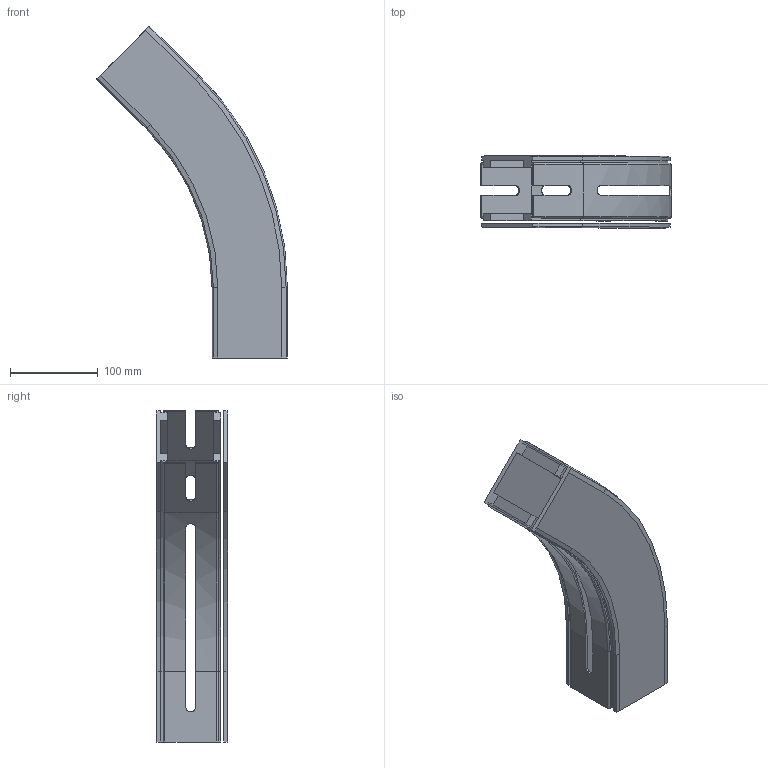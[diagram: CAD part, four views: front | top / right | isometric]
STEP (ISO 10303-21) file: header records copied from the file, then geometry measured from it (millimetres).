
FILE_DESCRIPTION((''),'2;1');
FILE_NAME('C:\Vault Klient\Projekt\Koncept konstruktion\Serie 530 Balk\530-5200.stp','2010-12-01T08:06:11',('Mathias'),(''),'Autodesk Inventor 2011','Autodesk Inventor 2011','');
FILE_SCHEMA(('AUTOMOTIVE_DESIGN { 1 0 10303 214 1 1 1 1 }'));
Length unit declared in the file: millimetre
Products named in the file (1): 530-5200
Bounding box: 217.84 x 82 x 379.11 mm (x, y, z)
Volume: 573302.4 mm3; surface area: 276004.1 mm2
Topology: 2 solids, 2 shells, 159 faces, 446 edges, 292 vertices
Faces by surface type: plane 103, cylinder 32, bspline 16, torus 4, cone 4
Entity records: 5362 total; most frequent: CARTESIAN_POINT 1206, ORIENTED_EDGE 892, DIRECTION 782, EDGE_CURVE 446, VECTOR 334, LINE 334, VERTEX_POINT 292, AXIS2_PLACEMENT_3D 224
